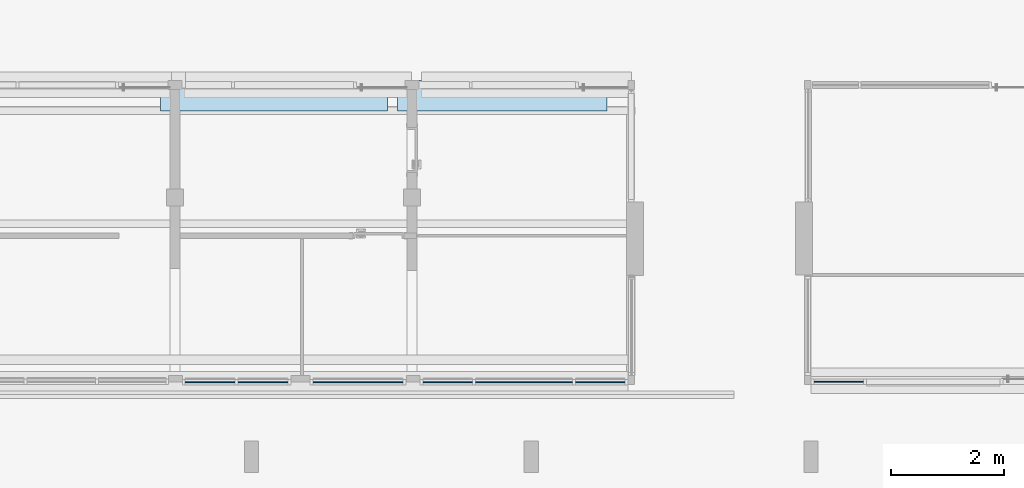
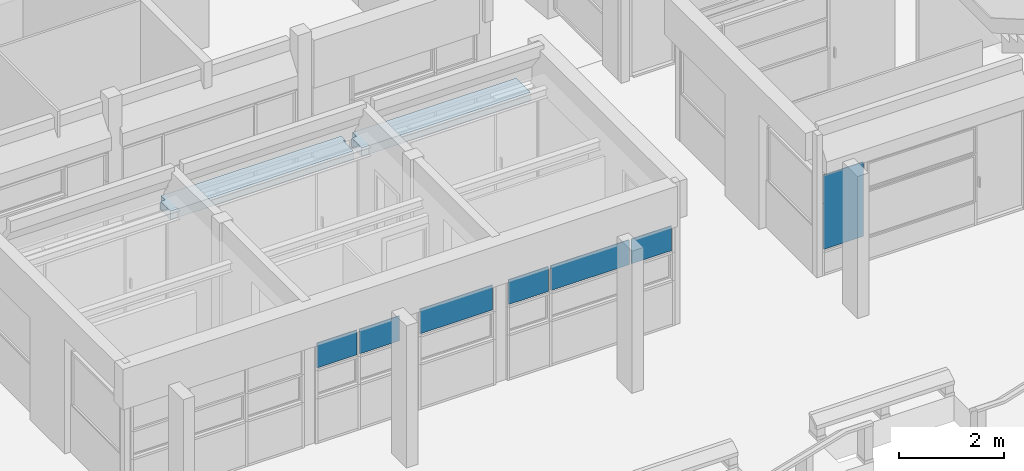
# One storey, part 39 of 117: 7 plates, 2 slabs, 4 elements without a shape of their own.
"""IFC4 building model written with IfcOpenShell, lengths in metres."""

from ifc_helpers import new_model, entity, si_unit, converted_unit, derived_unit, direction, frame, origin, place, context, subcontext, project, spatial, indexed_curve, outline, extrude, source, transform, mapped, material, type_object, type_shapes, element, aggregate, save


model = new_model("IFC4")

# Units and contexts
model_context = context("Model", 3, precision=1e-05, world=origin(), true_north=direction((6.123031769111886e-17, 1.0)))
body_context = subcontext(model_context, "Body", "Model", "MODEL_VIEW")
ifc_project = project(units=[si_unit("LENGTHUNIT", "METRE"), si_unit("AREAUNIT", "SQUARE_METRE"), si_unit("VOLUMEUNIT", "CUBIC_METRE"), converted_unit("PLANEANGLEUNIT", "DEGREE", entity("IfcRatioMeasure", 0.017453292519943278), si_unit("PLANEANGLEUNIT", "RADIAN"), dimensions=[0, 0, 0, 0, 0, 0, 0]), si_unit("MASSUNIT", "GRAM", prefix="KILO"), derived_unit("MASSDENSITYUNIT", [(si_unit("MASSUNIT", "GRAM", prefix="KILO"), 1), (si_unit("LENGTHUNIT", "METRE"), -3)]), derived_unit("MOMENTOFINERTIAUNIT", [(si_unit("LENGTHUNIT", "METRE"), 4)]), si_unit("TIMEUNIT", "SECOND"), si_unit("FREQUENCYUNIT", "HERTZ"), si_unit("THERMODYNAMICTEMPERATUREUNIT", "DEGREE_CELSIUS"), derived_unit("THERMALTRANSMITTANCEUNIT", [(si_unit("MASSUNIT", "GRAM", prefix="KILO"), 1), (si_unit("THERMODYNAMICTEMPERATUREUNIT", "KELVIN"), -1), (si_unit("TIMEUNIT", "SECOND"), -3)]), derived_unit("VOLUMETRICFLOWRATEUNIT", [(si_unit("LENGTHUNIT", "METRE"), 3), (si_unit("TIMEUNIT", "SECOND"), -1)]), derived_unit("MASSFLOWRATEUNIT", [(si_unit("MASSUNIT", "GRAM", prefix="KILO"), 1), (si_unit("TIMEUNIT", "SECOND"), -1)]), derived_unit("ROTATIONALFREQUENCYUNIT", [(si_unit("TIMEUNIT", "SECOND"), -1)]), si_unit("ELECTRICCURRENTUNIT", "AMPERE"), si_unit("ELECTRICVOLTAGEUNIT", "VOLT"), si_unit("POWERUNIT", "WATT"), si_unit("FORCEUNIT", "NEWTON", prefix="KILO"), si_unit("ILLUMINANCEUNIT", "LUX"), si_unit("LUMINOUSFLUXUNIT", "LUMEN"), si_unit("LUMINOUSINTENSITYUNIT", "CANDELA"), derived_unit("USERDEFINED", [(si_unit("MASSUNIT", "GRAM", prefix="KILO"), -1), (si_unit("LENGTHUNIT", "METRE"), -2), (si_unit("TIMEUNIT", "SECOND"), 3), (si_unit("LUMINOUSFLUXUNIT", "LUMEN"), 1)]), derived_unit("SOUNDPOWERUNIT", [(si_unit("MASSUNIT", "GRAM", prefix="KILO"), 1), (si_unit("LENGTHUNIT", "METRE"), 2), (si_unit("TIMEUNIT", "SECOND"), -3)]), derived_unit("SOUNDPRESSUREUNIT", [(si_unit("MASSUNIT", "GRAM", prefix="KILO"), 1), (si_unit("LENGTHUNIT", "METRE"), -1), (si_unit("TIMEUNIT", "SECOND"), -2)]), derived_unit("LINEARVELOCITYUNIT", [(si_unit("LENGTHUNIT", "METRE"), 1), (si_unit("TIMEUNIT", "SECOND"), -1)]), si_unit("PRESSUREUNIT", "PASCAL"), derived_unit("USERDEFINED", [(si_unit("LENGTHUNIT", "METRE"), -2), (si_unit("MASSUNIT", "GRAM", prefix="KILO"), 1), (si_unit("TIMEUNIT", "SECOND"), -2)]), derived_unit("LINEARFORCEUNIT", [(si_unit("MASSUNIT", "GRAM", prefix="KILO"), 1), (si_unit("LENGTHUNIT", "METRE"), 1), (si_unit("TIMEUNIT", "SECOND"), -2), (si_unit("LENGTHUNIT", "METRE"), -1)]), derived_unit("PLANARFORCEUNIT", [(si_unit("MASSUNIT", "GRAM", prefix="KILO"), 1), (si_unit("LENGTHUNIT", "METRE"), 1), (si_unit("TIMEUNIT", "SECOND"), -2), (si_unit("LENGTHUNIT", "METRE"), -2)])], contexts=[model_context])

# Site, building, storey
site_placement = place(None, origin())
site = spatial("IfcSite", under=ifc_project, at=site_placement, Name="Superficie", CompositionType="ELEMENT")
building_placement = place(site_placement, origin())
building = spatial("IfcBuilding", under=site, at=building_placement, CompositionType="ELEMENT")
storey_placement = place(building_placement, origin())
storey = spatial("IfcBuildingStorey", under=building, at=storey_placement, Name="Nivel 0", CompositionType="ELEMENT", Elevation=0.0)

# Slabs
ifc_material_1 = material(Name="Suelos por defecto", Category="Genérico")
slab_type_1 = type_object("IfcSlabType", Name="Suelo:Por defecto - 20 cm 2", PredefinedType="FLOOR", material=ifc_material_1)
slab_1_placement = place(storey_placement, origin())
element("IfcSlab", 1, at=slab_1_placement, inside=storey, type_object=slab_type_1, material=ifc_material_1, Name="Suelo:Por defecto - 20 cm 2", ObjectType="Suelo:Por defecto - 20 cm 2", PredefinedType="FLOOR", context=body_context, shape_type="SweptSolid", body=[
    extrude(outline(indexed_curve([(-0.3250000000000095, -2.043351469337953), (0.055000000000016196, -2.043351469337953), (0.055000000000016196, -1.9441485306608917), (0.21499999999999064, -1.9441485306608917), (0.21499999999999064, 2.01585146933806), (0.05500000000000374, 2.01585146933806), (0.05500000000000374, 1.971648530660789), (-0.3250000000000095, 1.971648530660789), (-0.3250000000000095, -2.043351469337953)], self_intersect=False)), frame((6.495947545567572, 3.3907137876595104, 2.6), z_axis=(0.0, 0.0, -1.0), x_axis=(0.0, 1.0, 0.0)), (0.0, 0.0, 1.0), 0.2),
])
slab_type_2 = type_object("IfcSlabType", Name="Suelo:Por defecto - 20 cm 2", PredefinedType="FLOOR", material=ifc_material_1)
slab_2_placement = place(storey_placement, origin())
element("IfcSlab", 2, at=slab_2_placement, inside=storey, type_object=slab_type_2, material=ifc_material_1, Name="Suelo:Por defecto - 20 cm 2", ObjectType="Suelo:Por defecto - 20 cm 2", PredefinedType="FLOOR", context=body_context, shape_type="SweptSolid", body=[
    extrude(outline(indexed_curve([(-0.3066666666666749, -1.273067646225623), (0.07333333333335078, -1.273067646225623), (0.07333333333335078, -1.1588647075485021), (0.23333333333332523, -1.1588647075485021), (0.23333333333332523, 2.431932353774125), (-0.3066666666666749, 2.431932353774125), (-0.3066666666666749, -1.273067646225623)], self_intersect=False)), frame((9.920663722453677, 3.3723804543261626, 2.6), z_axis=(0.0, 0.0, -1.0), x_axis=(0.0, 1.0, 0.0)), (0.0, 0.0, 1.0), 0.2),
])

# Curtain wall, plate
curtain_wall_type = type_object("IfcCurtainWallType", Name="Muro cortina:Muro cortina - simple", PredefinedType="NOTDEFINED")
curtain_wall_1_placement = place(storey_placement, origin())
curtain_wall_1 = element("IfcCurtainWall", 3, at=curtain_wall_1_placement, inside=storey, type_object=curtain_wall_type, Name="Muro cortina:Muro cortina - simple", ObjectType="Muro cortina:Muro cortina - simple", PredefinedType="NOTDEFINED")
ifc_material_2 = material(Name="Cristal", Category="Vidrio")
plate_type_1 = type_object("IfcPlateType", Name="Panel de sistema:Acristalado", PredefinedType="CURTAIN_PANEL", material=ifc_material_2)
shared_shape_1 = source(origin(), body_context, "Body", "SweptSolid", [
    extrude(outline(indexed_curve([(-0.9416666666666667, -0.43750000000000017), (0.1583333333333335, -0.43750000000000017), (0.7833333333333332, -0.43750000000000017), (0.7833333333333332, 0.43750000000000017), (0.1583333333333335, 0.43750000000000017), (-0.9416666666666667, 0.43750000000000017), (-0.9416666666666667, -0.43750000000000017)], self_intersect=False)), frame((0.0, -0.01000000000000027, 0.9416666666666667), z_axis=(0.0, 1.0, 0.0), x_axis=(0.0, 0.0, 1.0)), (0.0, 0.0, 1.0), 0.02),
])
type_shapes(plate_type_1, [shared_shape_1])
plate_1_placement = place(curtain_wall_1_placement, frame((16.454299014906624, -1.724170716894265, 0.5750000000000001), z_axis=(0.0, 0.0, 1.0), x_axis=(-1.0, 0.0, 0.0)))
plate_1 = element("IfcPlate", 4, at=plate_1_placement, type_object=plate_type_1, material=ifc_material_2, Name="Panel de sistema:Acristalado", ObjectType="Panel de sistema:Acristalado", PredefinedType="CURTAIN_PANEL", context=body_context, shape_type="MappedRepresentation", body=[
    mapped(shared_shape_1, transform((0.0, 0.0, 0.0), scale=1.0)),
])
aggregate(curtain_wall_1, [plate_1])

# Curtain wall, plates
curtain_wall_2_placement = place(storey_placement, origin())
curtain_wall_2 = element("IfcCurtainWall", 5, at=curtain_wall_2_placement, inside=storey, type_object=curtain_wall_type, Name="Muro cortina:Muro cortina - simple", ObjectType="Muro cortina:Muro cortina - simple", PredefinedType="NOTDEFINED")
plate_type_2 = type_object("IfcPlateType", Name="Panel de sistema:Acristalado", PredefinedType="CURTAIN_PANEL", material=ifc_material_2)
shared_shape_2 = source(origin(), body_context, "Body", "SweptSolid", [
    extrude(outline(indexed_curve([(-0.01, -0.4425000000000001), (0.01, -0.4425000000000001), (0.01, 0.4425000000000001), (-0.01, 0.4425000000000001), (-0.01, -0.4425000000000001)], self_intersect=False)), frame((0.0, 0.0, 0.0), z_axis=(0.0, 0.0, 1.0), x_axis=(0.0, 1.0, 0.0)), (0.0, 0.0, 1.0), 0.575),
])
type_shapes(plate_type_2, [shared_shape_2])
plate_2_placement = place(curtain_wall_2_placement, frame((5.329299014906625, -1.7341707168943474, 1.7249999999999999)))
plate_2 = element("IfcPlate", 6, at=plate_2_placement, type_object=plate_type_2, material=ifc_material_2, Name="Panel de sistema:Acristalado", ObjectType="Panel de sistema:Acristalado", PredefinedType="CURTAIN_PANEL", context=body_context, shape_type="MappedRepresentation", body=[
    mapped(shared_shape_2, transform((0.0, 0.0, 0.0), scale=1.0)),
])
plate_3_placement = place(curtain_wall_2_placement, frame((6.264299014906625, -1.7341707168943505, 1.7249999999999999)))
plate_3 = element("IfcPlate", 7, at=plate_3_placement, type_object=plate_type_2, material=ifc_material_2, Name="Panel de sistema:Acristalado", ObjectType="Panel de sistema:Acristalado", PredefinedType="CURTAIN_PANEL", context=body_context, shape_type="MappedRepresentation", body=[
    mapped(shared_shape_2, transform((0.0, 0.0, 0.0), scale=1.0)),
])
aggregate(curtain_wall_2, [plate_2, plate_3])

# Curtain wall, plate
curtain_wall_3_placement = place(storey_placement, origin())
curtain_wall_3 = element("IfcCurtainWall", 8, at=curtain_wall_3_placement, inside=storey, type_object=curtain_wall_type, Name="Muro cortina:Muro cortina - simple", ObjectType="Muro cortina:Muro cortina - simple", PredefinedType="NOTDEFINED")
plate_type_3 = type_object("IfcPlateType", Name="Panel de sistema:Acristalado", PredefinedType="CURTAIN_PANEL", material=ifc_material_2)
shared_shape_3 = source(origin(), body_context, "Body", "SweptSolid", [
    extrude(outline(indexed_curve([(-0.01, -0.8), (0.01, -0.8), (0.01, 0.8), (-0.01, 0.8), (-0.01, -0.8)], self_intersect=False)), frame((0.0, 0.0, 0.0), z_axis=(0.0, 0.0, 1.0), x_axis=(0.0, 1.0, 0.0)), (0.0, 0.0, 1.0), 0.5750000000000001),
])
type_shapes(plate_type_3, [shared_shape_3])
plate_4_placement = place(curtain_wall_3_placement, frame((7.946799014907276, -1.7341707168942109, 1.7249999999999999)))
plate_4 = element("IfcPlate", 9, at=plate_4_placement, type_object=plate_type_3, material=ifc_material_2, Name="Panel de sistema:Acristalado", ObjectType="Panel de sistema:Acristalado", PredefinedType="CURTAIN_PANEL", context=body_context, shape_type="MappedRepresentation", body=[
    mapped(shared_shape_3, transform((0.0, 0.0, 0.0), scale=1.0)),
])
aggregate(curtain_wall_3, [plate_4])

# Curtain wall, plates
curtain_wall_4_placement = place(storey_placement, origin())
curtain_wall_4 = element("IfcCurtainWall", 10, at=curtain_wall_4_placement, inside=storey, type_object=curtain_wall_type, Name="Muro cortina:Muro cortina - simple", ObjectType="Muro cortina:Muro cortina - simple", PredefinedType="NOTDEFINED")
plate_type_4 = type_object("IfcPlateType", Name="Panel de sistema:Acristalado", PredefinedType="CURTAIN_PANEL", material=ifc_material_2)
shared_shape_4 = source(origin(), body_context, "Body", "SweptSolid", [
    extrude(outline(indexed_curve([(-0.01, -0.43750000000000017), (0.01, -0.43750000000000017), (0.01, 0.43750000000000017), (-0.01, 0.43750000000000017), (-0.01, -0.43750000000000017)], self_intersect=False)), frame((0.0, 0.0, 0.0), z_axis=(0.0, 0.0, 1.0), x_axis=(0.0, 1.0, 0.0)), (0.0, 0.0, 1.0), 0.575),
])
type_shapes(plate_type_4, [shared_shape_4])
plate_5_placement = place(curtain_wall_4_placement, frame((9.534299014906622, -1.7341707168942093, 1.7249999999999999)))
plate_5 = element("IfcPlate", 11, at=plate_5_placement, type_object=plate_type_4, material=ifc_material_2, Name="Panel de sistema:Acristalado", ObjectType="Panel de sistema:Acristalado", PredefinedType="CURTAIN_PANEL", context=body_context, shape_type="MappedRepresentation", body=[
    mapped(shared_shape_4, transform((0.0, 0.0, 0.0), scale=1.0)),
])
plate_6_placement = place(curtain_wall_4_placement, frame((12.234299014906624, -1.734170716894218, 1.7249999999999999)))
plate_6 = element("IfcPlate", 12, at=plate_6_placement, type_object=plate_type_4, material=ifc_material_2, Name="Panel de sistema:Acristalado", ObjectType="Panel de sistema:Acristalado", PredefinedType="CURTAIN_PANEL", context=body_context, shape_type="MappedRepresentation", body=[
    mapped(shared_shape_4, transform((0.0, 0.0, 0.0), scale=1.0)),
])
plate_type_5 = type_object("IfcPlateType", Name="Panel de sistema:Acristalado", PredefinedType="CURTAIN_PANEL", material=ifc_material_2)
shared_shape_5 = source(origin(), body_context, "Body", "SweptSolid", [
    extrude(outline(indexed_curve([(-0.01, -0.8624999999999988), (0.01, -0.8624999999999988), (0.01, 0.8624999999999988), (-0.01, 0.8624999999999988), (-0.01, -0.8624999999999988)], self_intersect=False)), frame((0.0, 0.0, 0.0), z_axis=(0.0, 0.0, 1.0), x_axis=(0.0, 1.0, 0.0)), (0.0, 0.0, 1.0), 0.5749999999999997),
])
type_shapes(plate_type_5, [shared_shape_5])
plate_7_placement = place(curtain_wall_4_placement, frame((10.884299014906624, -1.7341707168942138, 1.7249999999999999)))
plate_7 = element("IfcPlate", 13, at=plate_7_placement, type_object=plate_type_5, material=ifc_material_2, Name="Panel de sistema:Acristalado", ObjectType="Panel de sistema:Acristalado", PredefinedType="CURTAIN_PANEL", context=body_context, shape_type="MappedRepresentation", body=[
    mapped(shared_shape_5, transform((0.0, 0.0, 0.0), scale=1.0)),
])
aggregate(curtain_wall_4, [plate_5, plate_7, plate_6])

save(model, "model.ifc")
